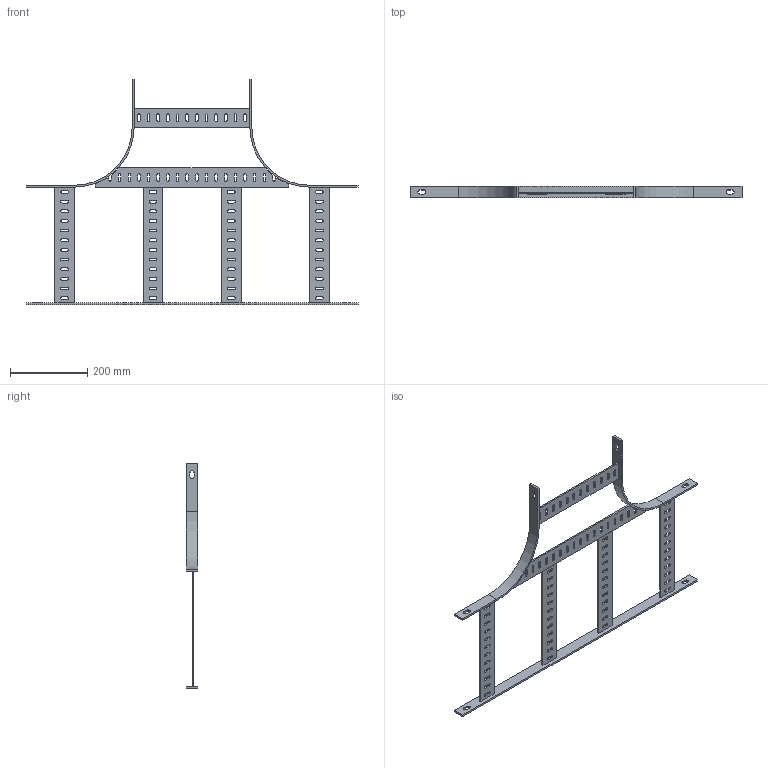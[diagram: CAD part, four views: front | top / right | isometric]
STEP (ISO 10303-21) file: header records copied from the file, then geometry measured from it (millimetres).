
FILE_DESCRIPTION(('Creo Elements/Direct Modeling STEP Export'),'2;1');
FILE_NAME('//pserver/office/EK/ME10-3D/3D-output/SLA 300.stp','2020-03-10T 9:33:50',(''),(''),'PTC Creo Elements/Direct Modeling STEP processor for AP214 (Solid Model)','PTC Creo Elements/Direct Modeling 19.0C 15-Aug-2015 (C) Parametric Technology GmbH','');
FILE_SCHEMA(('AUTOMOTIVE_DESIGN { 1 0 10303 214 1 1 1 1 }'));
Length unit declared in the file: millimetre
Products named in the file (5): SLA_Holm_30-L860; SLB_HI_300.1; SKL_300B_Strebe.1; SLA_Strebe_30; SLA_300
Assembly tree (9 placements, depth 2):
  SLA_300
    SKL_300B_Strebe.1  x5
    SLA_Strebe_30
    SLB_HI_300.1  x2
    SLA_Holm_30-L860
Bounding box: 860 x 30 x 585 mm (x, y, z)
Volume: 618814.8 mm3; surface area: 336168.3 mm2
Topology: 9 solids, 9 shells, 402 faces, 1152 edges, 768 vertices
Faces by surface type: plane 231, cylinder 171
Entity records: 5792 total; most frequent: CARTESIAN_POINT 975, DIRECTION 970, ORIENTED_EDGE 960, EDGE_CURVE 480, VECTOR 340, LINE 340, VERTEX_POINT 320, AXIS2_PLACEMENT_3D 315
